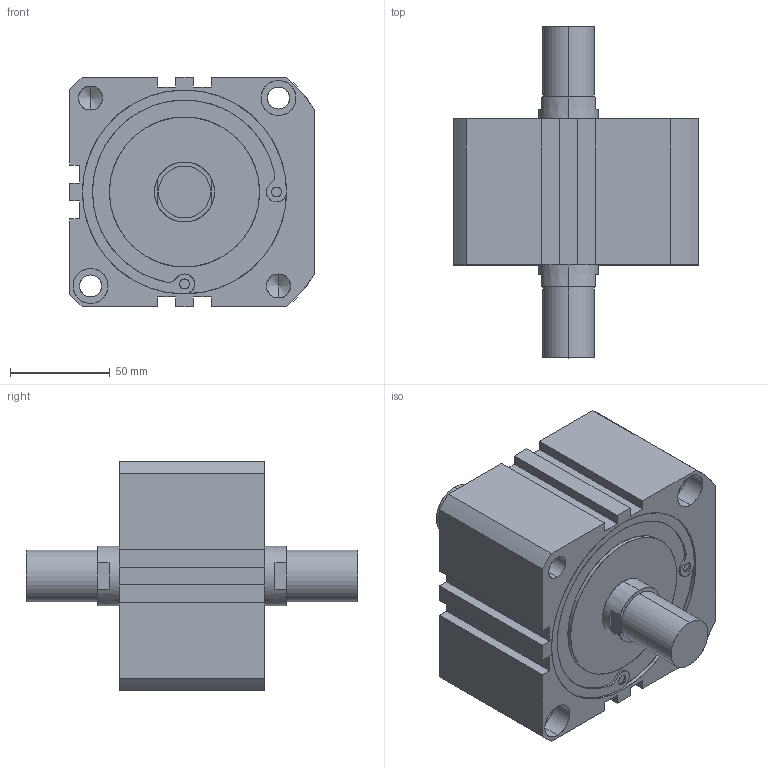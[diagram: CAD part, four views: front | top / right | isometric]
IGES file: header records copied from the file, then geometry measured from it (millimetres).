
Start section: SolidWorks IGES file using analytic representation for surfaces
Global section: file name: C:\Users\Toshiba\Desktop\XC#M7-100-10.IGS; native system: SolidWorks 2014; preprocessor: SolidWorks 2014; author: Toshiba; date: 160523.170537; units: millimetre
Bounding box: 122.5 x 166 x 115 mm (x, y, z)
Surface area: 86528.4 mm2 (no closed solid volume)
Topology: 0 solids, 0 shells, 140 faces, 2684 edges, 2672 vertices
Faces by surface type: revolution 82, bspline 58
